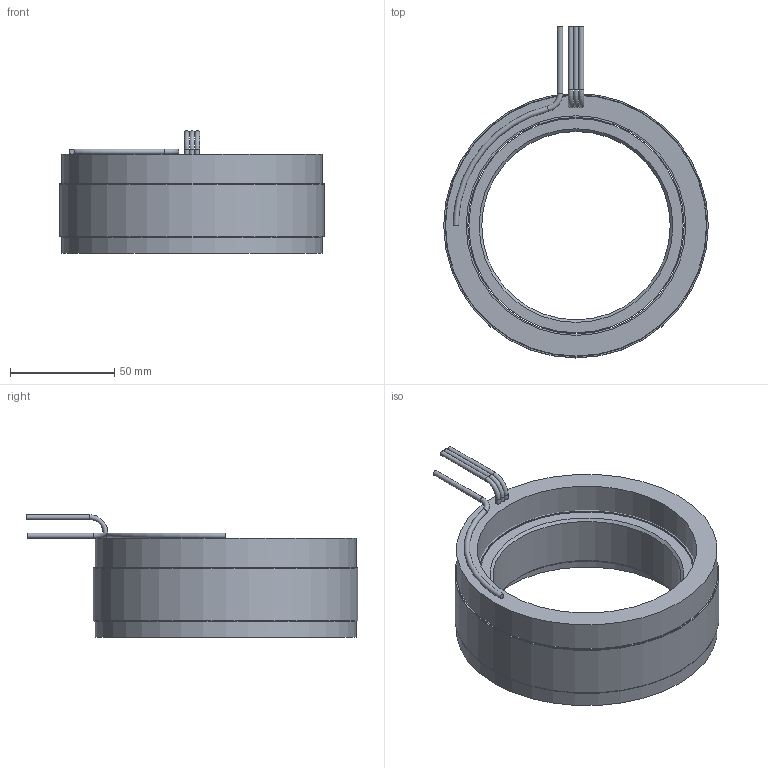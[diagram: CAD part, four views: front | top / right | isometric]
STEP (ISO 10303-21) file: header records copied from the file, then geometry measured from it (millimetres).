
FILE_DESCRIPTION (( 'STEP AP214' ), '1' );
FILE_NAME ('6100396-03.STEP', '2020-12-15T18:08:38', ( '' ), ( '' ), 'SwSTEP 2.0', 'SolidWorks 2016', '' );
FILE_SCHEMA (( 'AUTOMOTIVE_DESIGN' ));
Length unit declared in the file: inch
Products named in the file (10): 4500562-XX_4500562-03; 6100396-03; 4600569-00; 4400105-00; COMP4500562-XX(COIL)_COMP4500562-03(COIL); 4450193-XX_4450193-03; 4250384-XX_4250384-03; 4150182-XX_4150182-03
Assembly tree (10 placements, depth 4):
  6100396-03
    4250384-XX_4250384-03
      4150182-XX_4150182-03
    4500562-XX_4500562-03
      4450193-XX_4450193-03
        4450193-XX_4450193-03
        4400105-00
        4400105-00
        4600569-00  x2
      COMP4500562-XX(COIL)_COMP4500562-03(COIL)
Bounding box: 127 x 159.26 x 58.8 mm (x, y, z)
Volume: 327608.1 mm3; surface area: 122002.1 mm2
Topology: 8 solids, 8 shells, 47 faces, 74 edges, 46 vertices
Faces by surface type: cylinder 21, plane 19, torus 5, cone 2
Full cylindrical faces by diameter (mm): 2.286 x6, 2.54 x1, 90.424 x1, 102.87 x1, 103.886 x5, 105.41 x1, 125.222 x1, 125.73 x2, 127 x3
Entity records: 1305 total; most frequent: DIRECTION 202, CARTESIAN_POINT 143, AXIS2_PLACEMENT_3D 101, EDGE_LOOP 84, ORIENTED_EDGE 84, FACE_OUTER_BOUND 67, ADVANCED_FACE 43, CIRCLE 42
